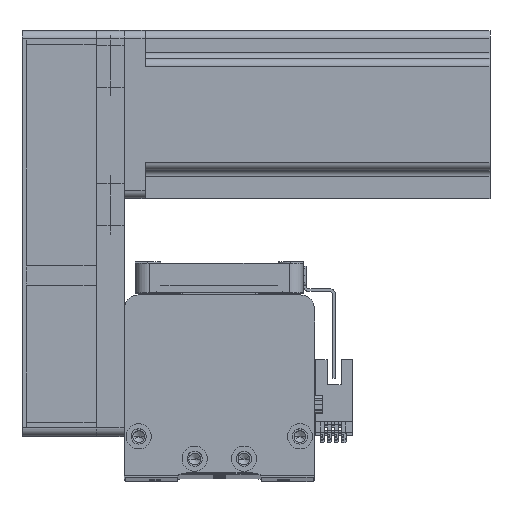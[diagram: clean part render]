
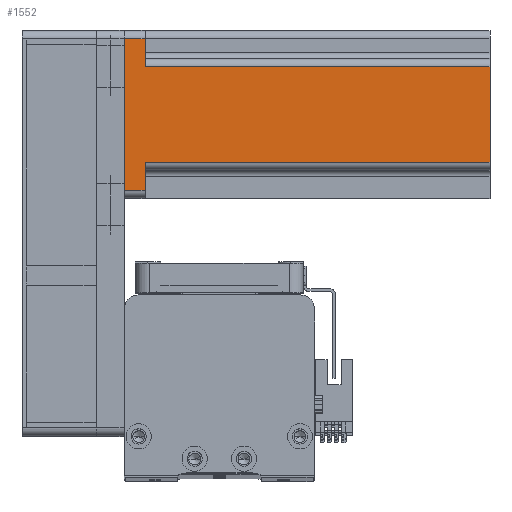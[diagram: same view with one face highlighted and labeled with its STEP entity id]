
A CAD part, top view. The second image highlights one B-rep face of the part: STEP entity #1552.
In plain terms, the highlighted planar face has unit normal (0, 0, 1) as drawn and (0, 1, 0) by its records, which use the part's own axes.
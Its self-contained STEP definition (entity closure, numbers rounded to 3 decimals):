
#285 = VECTOR ( 'NONE', #17952, 1000. ) ;
#573 = DIRECTION ( 'NONE',  ( 0., 0., -1. ) ) ;
#1464 = LINE ( 'NONE', #14245, #285 ) ;
#1552 = ADVANCED_FACE ( 'NONE', ( #47084 ), #5740, .F. ) ;
#1622 = VERTEX_POINT ( 'NONE', #30263 ) ;
#1902 = CARTESIAN_POINT ( 'NONE',  ( 27., 30., 7.5 ) ) ;
#3147 = DIRECTION ( 'NONE',  ( 1., 0., 0. ) ) ;
#3256 = VERTEX_POINT ( 'NONE', #4609 ) ;
#3772 = VERTEX_POINT ( 'NONE', #37451 ) ;
#3936 = DIRECTION ( 'NONE',  ( 0., -1., 0. ) ) ;
#4277 = CARTESIAN_POINT ( 'NONE',  ( 30., 30., 130.7 ) ) ;
#4609 = CARTESIAN_POINT ( 'NONE',  ( 17., 30., 130.7 ) ) ;
#4838 = VECTOR ( 'NONE', #11737, 1000. ) ;
#5054 = ORIENTED_EDGE ( 'NONE', *, *, #33390, .T. ) ;
#5740 = PLANE ( 'NONE',  #31484 ) ;
#5925 = ORIENTED_EDGE ( 'NONE', *, *, #44663, .T. ) ;
#7018 = CARTESIAN_POINT ( 'NONE',  ( -17., 30., 130.7 ) ) ;
#9740 = VERTEX_POINT ( 'NONE', #40733 ) ;
#9814 = CARTESIAN_POINT ( 'NONE',  ( -17., 30., 7.5 ) ) ;
#10401 = DIRECTION ( 'NONE',  ( -1., 0., 0. ) ) ;
#11074 = ORIENTED_EDGE ( 'NONE', *, *, #14300, .T. ) ;
#11576 = LINE ( 'NONE', #19706, #30106 ) ;
#11737 = DIRECTION ( 'NONE',  ( 0., 0., 1. ) ) ;
#12355 = VERTEX_POINT ( 'NONE', #47099 ) ;
#13299 = CARTESIAN_POINT ( 'NONE',  ( 30., 30., 0. ) ) ;
#13858 = VECTOR ( 'NONE', #18289, 1000. ) ;
#14245 = CARTESIAN_POINT ( 'NONE',  ( -20., 30., 7.5 ) ) ;
#14300 = EDGE_CURVE ( 'NONE', #3772, #12355, #15747, .T. ) ;
#15103 = EDGE_CURVE ( 'NONE', #29681, #17507, #11576, .T. ) ;
#15747 = LINE ( 'NONE', #19013, #4838 ) ;
#17328 = CARTESIAN_POINT ( 'NONE',  ( 17., 30., 7.5 ) ) ;
#17507 = VERTEX_POINT ( 'NONE', #17328 ) ;
#17952 = DIRECTION ( 'NONE',  ( 1., 0., 0. ) ) ;
#18289 = DIRECTION ( 'NONE',  ( 0., 0., -1. ) ) ;
#18902 = LINE ( 'NONE', #13299, #29927 ) ;
#19013 = CARTESIAN_POINT ( 'NONE',  ( -27., 30., 130.7 ) ) ;
#19706 = CARTESIAN_POINT ( 'NONE',  ( 20., 30., 7.5 ) ) ;
#20915 = ORIENTED_EDGE ( 'NONE', *, *, #39042, .F. ) ;
#20953 = ORIENTED_EDGE ( 'NONE', *, *, #15103, .F. ) ;
#21005 = LINE ( 'NONE', #36265, #29676 ) ;
#21709 = DIRECTION ( 'NONE',  ( 0., 0., 1. ) ) ;
#22130 = ORIENTED_EDGE ( 'NONE', *, *, #42388, .T. ) ;
#24335 = DIRECTION ( 'NONE',  ( -1., 0., 0. ) ) ;
#24510 = VERTEX_POINT ( 'NONE', #9814 ) ;
#27197 = EDGE_LOOP ( 'NONE', ( #5054, #29888, #20915, #5925, #20953, #22130, #38153, #11074 ) ) ;
#29676 = VECTOR ( 'NONE', #10401, 1000. ) ;
#29681 = VERTEX_POINT ( 'NONE', #1902 ) ;
#29888 = ORIENTED_EDGE ( 'NONE', *, *, #35010, .T. ) ;
#29927 = VECTOR ( 'NONE', #24335, 1000. ) ;
#30106 = VECTOR ( 'NONE', #45521, 1000. ) ;
#30263 = CARTESIAN_POINT ( 'NONE',  ( 27., 30., 0. ) ) ;
#30697 = LINE ( 'NONE', #33820, #39357 ) ;
#31484 = AXIS2_PLACEMENT_3D ( 'NONE', #4277, #3936, #3147 ) ;
#33390 = EDGE_CURVE ( 'NONE', #12355, #24510, #1464, .T. ) ;
#33820 = CARTESIAN_POINT ( 'NONE',  ( 17., 30., 130.7 ) ) ;
#34722 = LINE ( 'NONE', #44123, #13858 ) ;
#35010 = EDGE_CURVE ( 'NONE', #24510, #9740, #45232, .T. ) ;
#35446 = VECTOR ( 'NONE', #21709, 1000. ) ;
#36265 = CARTESIAN_POINT ( 'NONE',  ( 30., 30., 130.7 ) ) ;
#37451 = CARTESIAN_POINT ( 'NONE',  ( -27., 30., 0. ) ) ;
#38153 = ORIENTED_EDGE ( 'NONE', *, *, #40433, .T. ) ;
#39042 = EDGE_CURVE ( 'NONE', #3256, #9740, #21005, .T. ) ;
#39357 = VECTOR ( 'NONE', #573, 1000. ) ;
#40433 = EDGE_CURVE ( 'NONE', #1622, #3772, #18902, .T. ) ;
#40733 = CARTESIAN_POINT ( 'NONE',  ( -17., 30., 130.7 ) ) ;
#42388 = EDGE_CURVE ( 'NONE', #29681, #1622, #34722, .T. ) ;
#44123 = CARTESIAN_POINT ( 'NONE',  ( 27., 30., 130.7 ) ) ;
#44663 = EDGE_CURVE ( 'NONE', #3256, #17507, #30697, .T. ) ;
#45232 = LINE ( 'NONE', #7018, #35446 ) ;
#45521 = DIRECTION ( 'NONE',  ( -1., 0., 0. ) ) ;
#47084 = FACE_OUTER_BOUND ( 'NONE', #27197, .T. ) ;
#47099 = CARTESIAN_POINT ( 'NONE',  ( -27., 30., 7.5 ) ) ;
